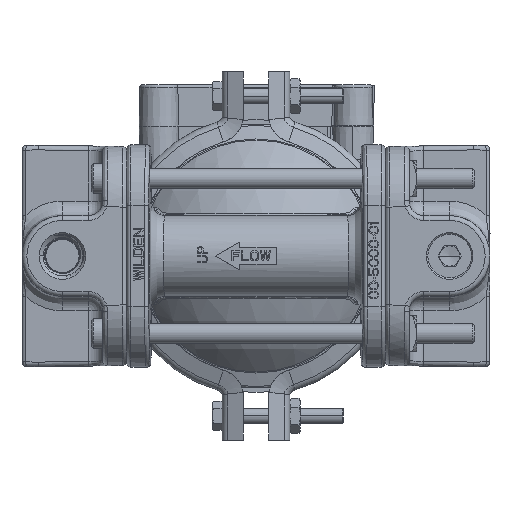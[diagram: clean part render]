
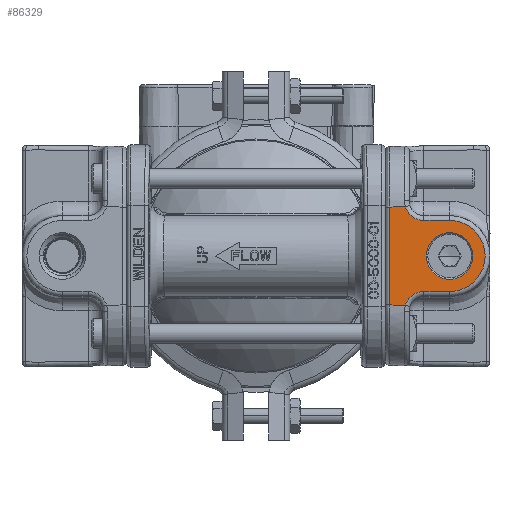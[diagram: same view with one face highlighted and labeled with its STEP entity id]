
A CAD part, left-side view. The second image highlights one B-rep face of the part: STEP entity #86329.
In plain terms, the highlighted planar face has unit normal (-1, 0, 0).
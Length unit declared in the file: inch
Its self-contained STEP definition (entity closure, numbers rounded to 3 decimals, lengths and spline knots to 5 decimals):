
#8926 = EDGE_CURVE ( 'NONE', #144352, #21777, #157164, .T. ) ;
#10249 = CARTESIAN_POINT ( 'NONE',  ( -3.205, -2.08, 0.44 ) ) ;
#11410 = CARTESIAN_POINT ( 'NONE',  ( -3.205, -1.66, -0.60673 ) ) ;
#12260 = EDGE_CURVE ( 'NONE', #144352, #231954, #172774, .T. ) ;
#12747 = CIRCLE ( 'NONE', #91548, 0.44 ) ;
#13472 = EDGE_CURVE ( 'NONE', #75627, #191368, #225526, .T. ) ;
#14764 = CARTESIAN_POINT ( 'NONE',  ( -3.205, -2.4, -0.44 ) ) ;
#15822 = EDGE_CURVE ( 'NONE', #21777, #27369, #33801, .T. ) ;
#21777 = VERTEX_POINT ( 'NONE', #11410 ) ;
#26705 = ORIENTED_EDGE ( 'NONE', *, *, #96774, .F. ) ;
#27369 = VERTEX_POINT ( 'NONE', #37436 ) ;
#33224 = CIRCLE ( 'NONE', #126873, 0.24 ) ;
#33801 = LINE ( 'NONE', #56073, #116860 ) ;
#33948 = DIRECTION ( 'NONE',  ( 0., 1., 0.017 ) ) ;
#35102 = VERTEX_POINT ( 'NONE', #161082 ) ;
#37257 = DIRECTION ( 'NONE',  ( 0., 0.957, -0.291 ) ) ;
#37436 = CARTESIAN_POINT ( 'NONE',  ( -3.205, -1.66, 0.60673 ) ) ;
#40351 = DIRECTION ( 'NONE',  ( 0., -1., 0. ) ) ;
#43487 = AXIS2_PLACEMENT_3D ( 'NONE', #86014, #226762, #104772 ) ;
#44148 = DIRECTION ( 'NONE',  ( 1., 0., 0. ) ) ;
#44414 = EDGE_LOOP ( 'NONE', ( #229767, #113982 ) ) ;
#44650 = DIRECTION ( 'NONE',  ( 0., 0., 1. ) ) ;
#46864 = EDGE_CURVE ( 'NONE', #191368, #75627, #164476, .T. ) ;
#47306 = FACE_OUTER_BOUND ( 'NONE', #162989, .T. ) ;
#50317 = ORIENTED_EDGE ( 'NONE', *, *, #128905, .T. ) ;
#56073 = CARTESIAN_POINT ( 'NONE',  ( -3.205, -1.66, -0.60673 ) ) ;
#56704 = VECTOR ( 'NONE', #187417, 39.37008 ) ;
#56836 = CARTESIAN_POINT ( 'NONE',  ( -3.205, -2.4, 0. ) ) ;
#59337 = CARTESIAN_POINT ( 'NONE',  ( -3.205, -2.1115, 0. ) ) ;
#62181 = VECTOR ( 'NONE', #152641, 39.37008 ) ;
#68371 = FACE_BOUND ( 'NONE', #44414, .T. ) ;
#68721 = ORIENTED_EDGE ( 'NONE', *, *, #15822, .F. ) ;
#74699 = VECTOR ( 'NONE', #33948, 39.37008 ) ;
#75627 = VERTEX_POINT ( 'NONE', #229872 ) ;
#82206 = ORIENTED_EDGE ( 'NONE', *, *, #227978, .F. ) ;
#85789 = AXIS2_PLACEMENT_3D ( 'NONE', #167009, #185740, #199880 ) ;
#86014 = CARTESIAN_POINT ( 'NONE',  ( -3.205, -2.4, -1.375 ) ) ;
#86329 = ADVANCED_FACE ( 'NONE', ( #47306, #68371 ), #118888, .T. ) ;
#91548 = AXIS2_PLACEMENT_3D ( 'NONE', #119681, #172464, #44650 ) ;
#94304 = DIRECTION ( 'NONE',  ( 0., -1., 0. ) ) ;
#96774 = EDGE_CURVE ( 'NONE', #164198, #156216, #154526, .T. ) ;
#104246 = CARTESIAN_POINT ( 'NONE',  ( -3.205, -2.4, 0.44 ) ) ;
#104772 = DIRECTION ( 'NONE',  ( 0., 0., 1. ) ) ;
#107113 = VERTEX_POINT ( 'NONE', #14764 ) ;
#111960 = DIRECTION ( 'NONE',  ( -1., 0., 0. ) ) ;
#112444 = ORIENTED_EDGE ( 'NONE', *, *, #12260, .T. ) ;
#112860 = AXIS2_PLACEMENT_3D ( 'NONE', #133329, #44148, #153205 ) ;
#113441 = CARTESIAN_POINT ( 'NONE',  ( -3.205, -2.08, 0.68 ) ) ;
#113475 = EDGE_CURVE ( 'NONE', #35102, #164198, #33224, .T. ) ;
#113982 = ORIENTED_EDGE ( 'NONE', *, *, #13472, .F. ) ;
#116318 = CARTESIAN_POINT ( 'NONE',  ( -3.205, -1.85042, 0.61006 ) ) ;
#116860 = VECTOR ( 'NONE', #141730, 39.37008 ) ;
#117665 = CARTESIAN_POINT ( 'NONE',  ( -3.205, -2.08, -0.44 ) ) ;
#118888 = PLANE ( 'NONE',  #43487 ) ;
#119681 = CARTESIAN_POINT ( 'NONE',  ( -3.205, -2.4, 0. ) ) ;
#124412 = AXIS2_PLACEMENT_3D ( 'NONE', #56836, #111960, #40351 ) ;
#126873 = AXIS2_PLACEMENT_3D ( 'NONE', #113441, #132189, #37257 ) ;
#128905 = EDGE_CURVE ( 'NONE', #35102, #27369, #225349, .T. ) ;
#132189 = DIRECTION ( 'NONE',  ( -1., 0., 0. ) ) ;
#133329 = CARTESIAN_POINT ( 'NONE',  ( -3.205, -2.08, -0.68 ) ) ;
#141730 = DIRECTION ( 'NONE',  ( 0., 0., 1. ) ) ;
#141879 = CARTESIAN_POINT ( 'NONE',  ( -3.205, -1.85042, -0.61006 ) ) ;
#144352 = VERTEX_POINT ( 'NONE', #178413 ) ;
#152641 = DIRECTION ( 'NONE',  ( 0., 1., -0.017 ) ) ;
#152814 = CARTESIAN_POINT ( 'NONE',  ( -3.205, -2.08, -0.44 ) ) ;
#153205 = DIRECTION ( 'NONE',  ( 0., 0.957, 0.291 ) ) ;
#154526 = LINE ( 'NONE', #10249, #56704 ) ;
#156216 = VERTEX_POINT ( 'NONE', #104246 ) ;
#157164 = LINE ( 'NONE', #141879, #74699 ) ;
#161082 = CARTESIAN_POINT ( 'NONE',  ( -3.205, -1.85042, 0.61006 ) ) ;
#162989 = EDGE_LOOP ( 'NONE', ( #112444, #166451, #82206, #26705, #165347, #50317, #68721, #203234 ) ) ;
#164198 = VERTEX_POINT ( 'NONE', #222463 ) ;
#164476 = CIRCLE ( 'NONE', #85789, 0.2885 ) ;
#165347 = ORIENTED_EDGE ( 'NONE', *, *, #113475, .F. ) ;
#165890 = VECTOR ( 'NONE', #94304, 39.37008 ) ;
#166451 = ORIENTED_EDGE ( 'NONE', *, *, #222720, .T. ) ;
#167009 = CARTESIAN_POINT ( 'NONE',  ( -3.205, -2.4, 0. ) ) ;
#172464 = DIRECTION ( 'NONE',  ( 1., 0., 0. ) ) ;
#172774 = CIRCLE ( 'NONE', #112860, 0.24 ) ;
#178413 = CARTESIAN_POINT ( 'NONE',  ( -3.205, -1.85042, -0.61006 ) ) ;
#185740 = DIRECTION ( 'NONE',  ( -1., 0., 0. ) ) ;
#187417 = DIRECTION ( 'NONE',  ( 0., -1., 0. ) ) ;
#188024 = LINE ( 'NONE', #117665, #165890 ) ;
#191368 = VERTEX_POINT ( 'NONE', #59337 ) ;
#199880 = DIRECTION ( 'NONE',  ( 0., 1., 0. ) ) ;
#203234 = ORIENTED_EDGE ( 'NONE', *, *, #8926, .F. ) ;
#222463 = CARTESIAN_POINT ( 'NONE',  ( -3.205, -2.08, 0.44 ) ) ;
#222720 = EDGE_CURVE ( 'NONE', #231954, #107113, #188024, .T. ) ;
#225349 = LINE ( 'NONE', #116318, #62181 ) ;
#225526 = CIRCLE ( 'NONE', #124412, 0.2885 ) ;
#226762 = DIRECTION ( 'NONE',  ( -1., 0., 0. ) ) ;
#227978 = EDGE_CURVE ( 'NONE', #156216, #107113, #12747, .T. ) ;
#229767 = ORIENTED_EDGE ( 'NONE', *, *, #46864, .F. ) ;
#229872 = CARTESIAN_POINT ( 'NONE',  ( -3.205, -2.6885, 0. ) ) ;
#231954 = VERTEX_POINT ( 'NONE', #152814 ) ;
